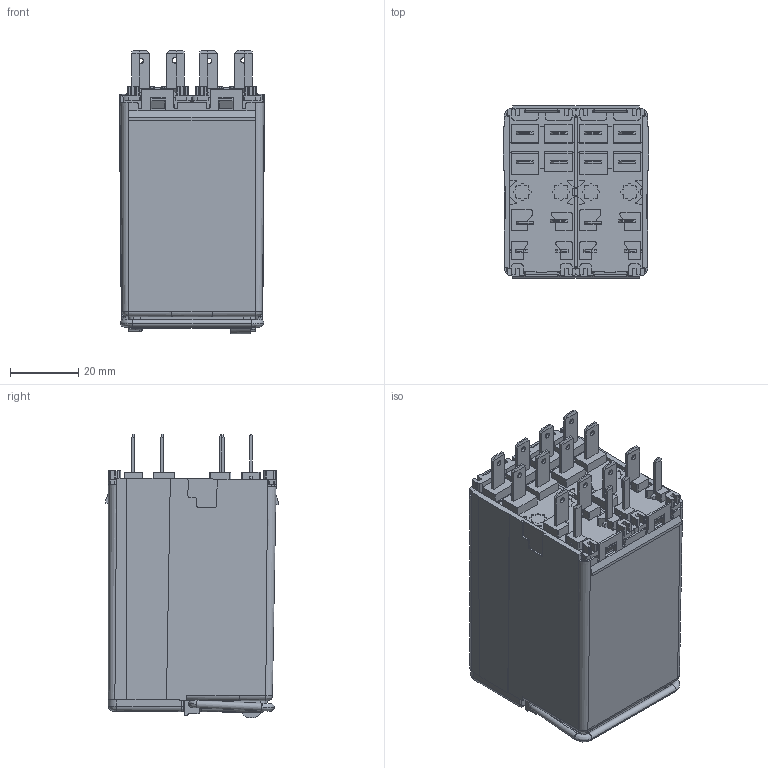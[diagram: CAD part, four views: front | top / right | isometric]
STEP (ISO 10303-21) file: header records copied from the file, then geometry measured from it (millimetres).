
FILE_DESCRIPTION (( 'STEP AP203' ), '1' );
FILE_NAME ('RELE RF4 SYDI.STEP', '2014-06-17T05:57:33', ( '' ), ( '' ), 'SwSTEP 2.0', 'SolidWorks 2013', '' );
FILE_SCHEMA (( 'CONFIG_CONTROL_DESIGN' ));
Products named in the file (1): RELE RF4 SYDI
Bounding box: 42.5 x 50.39 x 83.03 mm (x, y, z)
Surface area: 24095 mm2 (no closed solid volume)
Topology: 0 solids, 10 shells, 1613 faces, 4530 edges, 2948 vertices
Faces by surface type: plane 1006, cylinder 402, bspline 184, cone 21
Entity records: 57109 total; most frequent: CARTESIAN_POINT 19132, ORIENTED_EDGE 9058, DIRECTION 6007, EDGE_CURVE 4530, LINE 2951, VECTOR 2951, VERTEX_POINT 2948, EDGE_LOOP 1679
